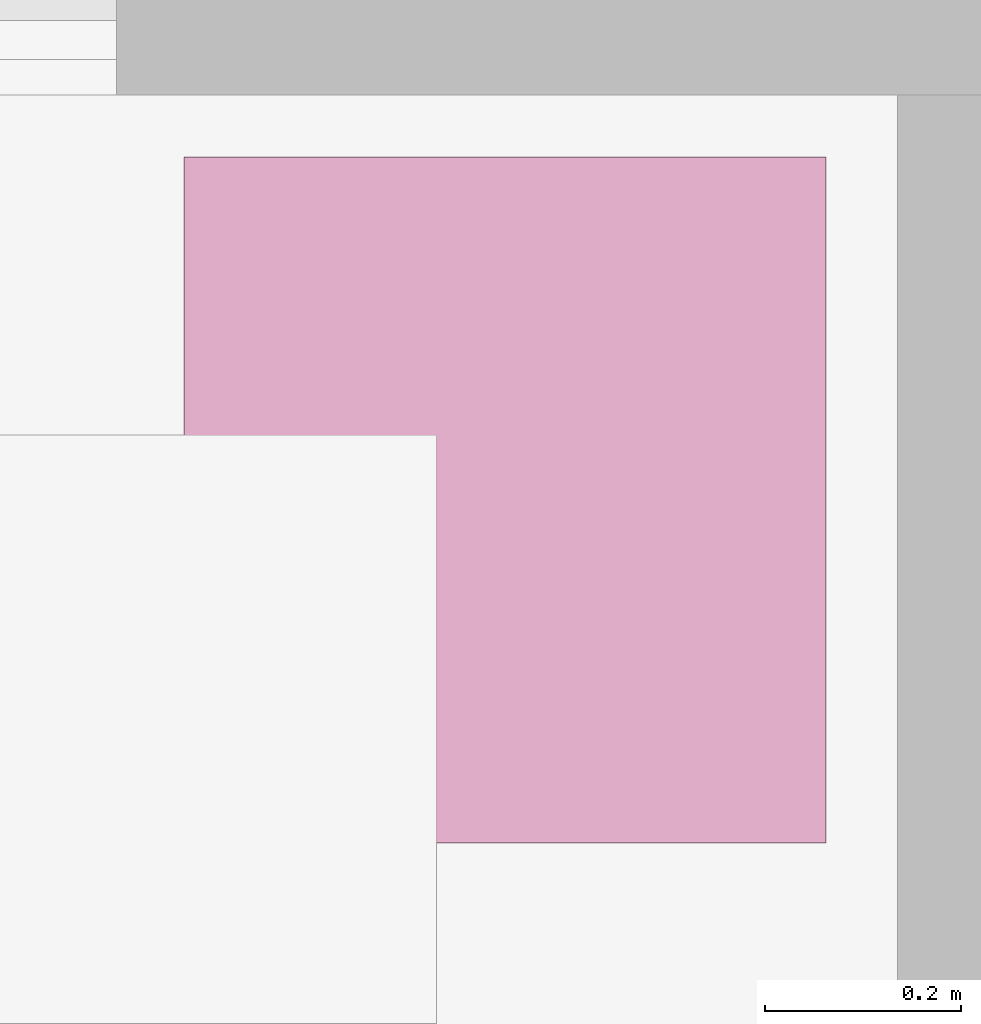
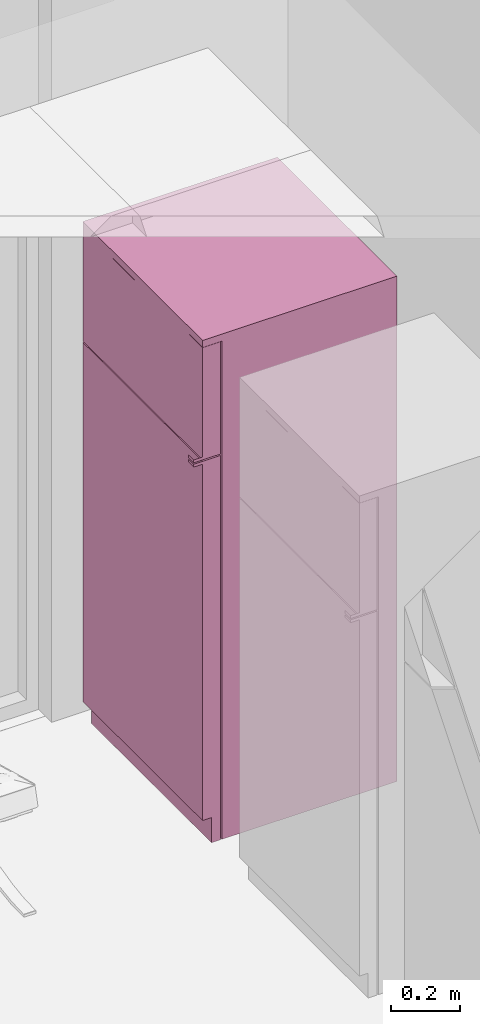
# One storey, part 58 of 60: 1 furnishing.
"""IFC2X3 building model written with IfcOpenShell, lengths in millimetres."""

from ifc_helpers import new_model, entity, si_unit, converted_unit, derived_unit, money_unit, direction, frame, origin_with_axes, place, context, subcontext, project, spatial, open_shell, faceted_brep, surface_model, source, transform, mapped, type_object, element, save


model = new_model("IFC2X3")

# Units and contexts
model_context = context("Model", 3, precision=0.01, world=origin_with_axes(), true_north=direction((0.0, 1.0)))
body_context = subcontext(model_context, "Body", "Model", "MODEL_VIEW")
ifc_project = project(units=[si_unit("LENGTHUNIT", "METRE", prefix="MILLI"), si_unit("AREAUNIT", "SQUARE_METRE"), si_unit("VOLUMEUNIT", "CUBIC_METRE"), converted_unit("PLANEANGLEUNIT", "DEGREE", entity("IfcPlaneAngleMeasure", 0.0174532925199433), si_unit("PLANEANGLEUNIT", "RADIAN"), dimensions=[0, 0, 0, 0, 0, 0, 0]), money_unit("USD"), converted_unit("TIMEUNIT", "Year", entity("IfcTimeMeasure", 31557600.0), si_unit("TIMEUNIT", "SECOND"), dimensions=[0, 0, 1, 0, 0, 0, 0]), si_unit("MASSUNIT", "GRAM", prefix="KILO"), si_unit("THERMODYNAMICTEMPERATUREUNIT", "DEGREE_CELSIUS"), si_unit("LUMINOUSINTENSITYUNIT", "LUMEN"), si_unit("ENERGYUNIT", "JOULE", prefix="MEGA"), derived_unit("THERMALCONDUCTANCEUNIT", [(si_unit("POWERUNIT", "WATT"), 1), (si_unit("LENGTHUNIT", "METRE"), -1), (si_unit("THERMODYNAMICTEMPERATUREUNIT", "KELVIN"), -1)]), derived_unit("SPECIFICHEATCAPACITYUNIT", [(si_unit("ENERGYUNIT", "JOULE"), 1), (si_unit("MASSUNIT", "GRAM", prefix="KILO"), -1), (si_unit("THERMODYNAMICTEMPERATUREUNIT", "KELVIN"), -1)]), derived_unit("MASSDENSITYUNIT", [(si_unit("MASSUNIT", "GRAM", prefix="KILO"), 1), (si_unit("VOLUMEUNIT", "CUBIC_METRE"), -1)])], contexts=[model_context])

# Site, building, storey
site_placement = place(None, origin_with_axes())
site = spatial("IfcSite", under=ifc_project, at=site_placement, Name="Sitio", CompositionType="ELEMENT")
building_placement = place(site_placement, origin_with_axes())
building = spatial("IfcBuilding", under=site, at=building_placement, Name="Construcción", CompositionType="ELEMENT")
storey_placement = place(building_placement, frame((0.0, 0.0, 3650.0), z_axis=(0.0, 0.0, 1.0), x_axis=(1.0, 0.0, 0.0)))
storey = spatial("IfcBuildingStorey", under=building, at=storey_placement, Name="PLANTA 2ª", CompositionType="ELEMENT", Elevation=3650.0)

# Furnishing
furnishing_element_type = type_object("IfcFurnishingElementType", Name="Nevera 27")
shared_shape = source(origin_with_axes(), body_context, "Body", "SurfaceModel", [
    faceted_brep([(0.0, 0.0, 1775.0), (698.9515664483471, 0.0, 1775.0), (698.9515664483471, 0.0, 1800.0), (0.0, 0.0, 1800.0), (0.0, 654.832835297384, 1775.0), (698.9515664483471, 654.832835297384, 1775.0), (698.9515664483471, 654.832835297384, 1800.0), (0.0, 654.832835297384, 1800.0)], [[[0, 1, 2, 3]], [[0, 4, 5, 1]], [[1, 5, 6, 2]], [[3, 2, 6, 7]], [[4, 0, 3, 7]], [[5, 4, 7, 6]]]),
    faceted_brep([(0.0, 65.0, 0.0), (698.9515664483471, 65.0, 0.0), (698.9515664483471, 65.0, 1775.0), (0.0, 65.0, 1775.0), (0.0, 654.832835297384, 0.0), (698.9515664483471, 654.832835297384, 0.0), (698.9515664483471, 654.832835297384, 1775.0), (0.0, 654.832835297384, 1775.0)], [[[0, 1, 2, 3]], [[0, 4, 5, 1]], [[1, 5, 6, 2]], [[3, 2, 6, 7]], [[4, 0, 3, 7]], [[5, 4, 7, 6]]]),
    faceted_brep([(0.0, 30.0, 0.0), (698.9515664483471, 30.0, 0.0), (698.9515664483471, 30.0, 90.0), (0.0, 30.0, 90.0), (0.0, 60.0, 0.0), (698.9515664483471, 60.0, 0.0), (698.9515664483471, 60.0, 90.0), (0.0, 60.0, 90.0)], [[[0, 1, 2, 3]], [[0, 4, 5, 1]], [[1, 5, 6, 2]], [[3, 2, 6, 7]], [[4, 0, 3, 7]], [[5, 4, 7, 6]]]),
    faceted_brep([(0.0, 60.0, 90.0), (698.9515664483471, 60.0, 90.0), (698.9515664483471, 0.0, 90.0), (0.0, 0.0, 90.0), (0.0, 60.00000000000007, 1369.5), (698.9515664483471, 60.00000000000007, 1369.5), (698.9515664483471, 0.0, 1369.5), (0.0, 0.0, 1369.5)], [[[0, 1, 2, 3]], [[0, 4, 5, 1]], [[1, 5, 6, 2]], [[3, 2, 6, 7]], [[4, 0, 3, 7]], [[5, 4, 7, 6]]]),
    faceted_brep([(0.0, 60.0, 1374.5), (698.9515664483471, 60.0, 1374.5), (698.9515664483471, 0.0, 1374.5), (0.0, 0.0, 1374.5), (0.0, 60.00000000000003, 1774.5), (698.9515664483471, 60.00000000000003, 1774.5), (698.9515664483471, 0.0, 1774.5), (0.0, 0.0, 1774.5)], [[[0, 1, 2, 3]], [[0, 4, 5, 1]], [[1, 5, 6, 2]], [[3, 2, 6, 7]], [[4, 0, 3, 7]], [[5, 4, 7, 6]]]),
    surface_model("IfcShellBasedSurfaceModel", [(698.9515664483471, -30.0, 1359.5), (698.9515664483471, -30.0, 1369.5), (698.9515664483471, 0.0, 1369.5), (698.9515664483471, 0.0, 1359.5)], [open_shell([[[0, 1, 2, 3]]])]),
    surface_model("IfcShellBasedSurfaceModel", [(698.9515664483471, -30.0, 1359.5), (698.9515664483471, -30.0, 1369.5), (668.9515664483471, -30.0, 1369.5), (668.9515664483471, -30.0, 1359.5)], [open_shell([[[0, 1, 2, 3]]])]),
    surface_model("IfcShellBasedSurfaceModel", [(698.9515664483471, -30.0, 1374.5), (698.9515664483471, -30.0, 1384.5), (698.9515664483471, 0.0, 1384.5), (698.9515664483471, 0.0, 1374.5)], [open_shell([[[0, 1, 2, 3]]])]),
    surface_model("IfcShellBasedSurfaceModel", [(698.9515664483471, -30.0, 1374.5), (698.9515664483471, -30.0, 1384.5), (668.9515664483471, -30.0, 1384.5), (668.9515664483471, -30.0, 1374.5)], [open_shell([[[0, 1, 2, 3]]])]),
])
furnishing_placement = place(storey_placement, frame((-13156.2278979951, 1900.275657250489, 0.0), z_axis=(0.0, 0.0, 1.0), x_axis=(0.0, -1.0, 0.0)))
element("IfcFurnishingElement", 1, at=furnishing_placement, inside=storey, type_object=furnishing_element_type, Name="60.20.53 Armari", context=body_context, shape_type="MappedRepresentation", body=[
    mapped(shared_shape, transform((0.0, 0.0, 0.0))),
])

save(model, "model.ifc")
